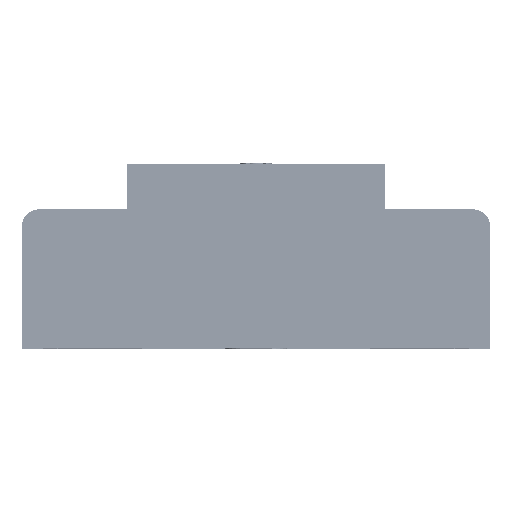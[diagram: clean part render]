
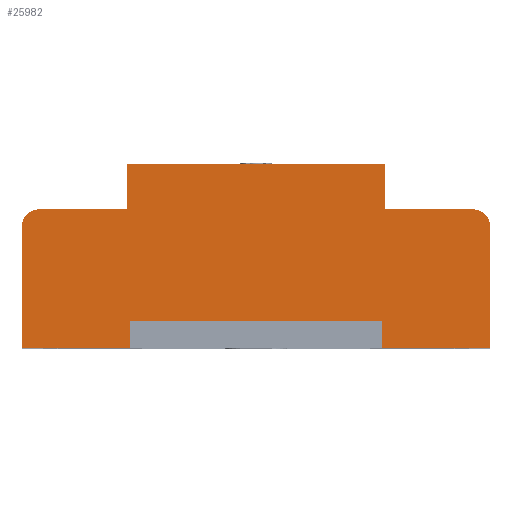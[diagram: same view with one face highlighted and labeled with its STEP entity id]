
A CAD part, top view. The second image highlights one B-rep face of the part: STEP entity #25982.
In plain terms, the highlighted planar face has unit normal (0, 0, 1).
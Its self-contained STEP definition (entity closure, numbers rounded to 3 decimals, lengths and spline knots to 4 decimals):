
#18813 = VERTEX_POINT ( 'NONE', #73922 ) ;
#18815 = EDGE_CURVE ( 'NONE', #18829, #18813, #73992, .T. ) ;
#18829 = VERTEX_POINT ( 'NONE', #73960 ) ;
#18831 = EDGE_CURVE ( 'NONE', #18832, #18829, #73959, .T. ) ;
#18832 = VERTEX_POINT ( 'NONE', #74025 ) ;
#18854 = EDGE_CURVE ( 'NONE', #18855, #18933, #73999, .T. ) ;
#18855 = VERTEX_POINT ( 'NONE', #73995 ) ;
#18863 = EDGE_CURVE ( 'NONE', #18876, #18887, #74055, .T. ) ;
#18870 = VERTEX_POINT ( 'NONE', #74036 ) ;
#18872 = EDGE_CURVE ( 'NONE', #18887, #18870, #74035, .T. ) ;
#18876 = VERTEX_POINT ( 'NONE', #74027 ) ;
#18878 = EDGE_CURVE ( 'NONE', #18879, #18876, #74092, .T. ) ;
#18879 = VERTEX_POINT ( 'NONE', #74088 ) ;
#18887 = VERTEX_POINT ( 'NONE', #74072 ) ;
#18901 = EDGE_CURVE ( 'NONE', #18902, #18832, #74117, .T. ) ;
#18902 = VERTEX_POINT ( 'NONE', #74113 ) ;
#18908 = VERTEX_POINT ( 'NONE', #74108 ) ;
#18910 = EDGE_CURVE ( 'NONE', #18919, #18908, #74107, .T. ) ;
#18919 = VERTEX_POINT ( 'NONE', #74093 ) ;
#18921 = EDGE_CURVE ( 'NONE', #18933, #18919, #74166, .T. ) ;
#18933 = VERTEX_POINT ( 'NONE', #74143 ) ;
#19196 = EDGE_CURVE ( 'NONE', #18813, #18879, #74516, .T. ) ;
#19356 = EDGE_CURVE ( 'NONE', #18870, #18855, #74698, .T. ) ;
#25982 = ADVANCED_FACE ( 'NONE', ( #91250 ), #91249, .T. ) ;
#25983 = EDGE_LOOP ( 'NONE', ( #25986, #25991, #25995, #26039, #26042, #26044, #26047, #26049, #26051, #26053, #26055, #26057, #26100, #26102 ) ) ;
#25986 = ORIENTED_EDGE ( 'NONE', *, *, #25988, .T. ) ;
#25988 = EDGE_CURVE ( 'NONE', #26020, #25989, #91239, .T. ) ;
#25989 = VERTEX_POINT ( 'NONE', #91235 ) ;
#25991 = ORIENTED_EDGE ( 'NONE', *, *, #25993, .T. ) ;
#25993 = EDGE_CURVE ( 'NONE', #25989, #18902, #91293, .T. ) ;
#25995 = ORIENTED_EDGE ( 'NONE', *, *, #18901, .T. ) ;
#26020 = VERTEX_POINT ( 'NONE', #91326 ) ;
#26039 = ORIENTED_EDGE ( 'NONE', *, *, #18831, .T. ) ;
#26042 = ORIENTED_EDGE ( 'NONE', *, *, #18815, .T. ) ;
#26044 = ORIENTED_EDGE ( 'NONE', *, *, #19196, .T. ) ;
#26047 = ORIENTED_EDGE ( 'NONE', *, *, #18878, .T. ) ;
#26049 = ORIENTED_EDGE ( 'NONE', *, *, #18863, .T. ) ;
#26051 = ORIENTED_EDGE ( 'NONE', *, *, #18872, .T. ) ;
#26053 = ORIENTED_EDGE ( 'NONE', *, *, #19356, .T. ) ;
#26055 = ORIENTED_EDGE ( 'NONE', *, *, #18854, .T. ) ;
#26057 = ORIENTED_EDGE ( 'NONE', *, *, #18921, .T. ) ;
#26063 = EDGE_CURVE ( 'NONE', #18908, #26020, #91357, .T. ) ;
#26100 = ORIENTED_EDGE ( 'NONE', *, *, #18910, .T. ) ;
#26102 = ORIENTED_EDGE ( 'NONE', *, *, #26063, .T. ) ;
#73398 = DIRECTION ( 'NONE',  ( 0., 0., 1. ) ) ;
#73922 = CARTESIAN_POINT ( 'NONE',  ( -1.116, -0.66, 1.314 ) ) ;
#73959 = CIRCLE ( 'NONE', #73962, 0.08 ) ;
#73960 = CARTESIAN_POINT ( 'NONE',  ( -1.116, -0.08, 1.314 ) ) ;
#73961 = CARTESIAN_POINT ( 'NONE',  ( -1.036, -0.08, 1.314 ) ) ;
#73962 = AXIS2_PLACEMENT_3D ( 'NONE', #73961, #73398, #74026 ) ;
#73989 = DIRECTION ( 'NONE',  ( 0., -1., 0. ) ) ;
#73990 = VECTOR ( 'NONE', #73989, 39.3701 ) ;
#73991 = CARTESIAN_POINT ( 'NONE',  ( -1.116, 0., 1.314 ) ) ;
#73992 = LINE ( 'NONE', #73991, #73990 ) ;
#73995 = CARTESIAN_POINT ( 'NONE',  ( 1.116, -0.66, 1.314 ) ) ;
#73996 = DIRECTION ( 'NONE',  ( 0., 1., 0. ) ) ;
#73997 = VECTOR ( 'NONE', #73996, 39.3701 ) ;
#73998 = CARTESIAN_POINT ( 'NONE',  ( 1.116, 0., 1.314 ) ) ;
#73999 = LINE ( 'NONE', #73998, #73997 ) ;
#74025 = CARTESIAN_POINT ( 'NONE',  ( -1.036, 0., 1.314 ) ) ;
#74026 = DIRECTION ( 'NONE',  ( -1., 0., 0. ) ) ;
#74027 = CARTESIAN_POINT ( 'NONE',  ( -0.6, -0.534, 1.314 ) ) ;
#74032 = DIRECTION ( 'NONE',  ( 0., -1., 0. ) ) ;
#74033 = VECTOR ( 'NONE', #74032, 39.3701 ) ;
#74034 = CARTESIAN_POINT ( 'NONE',  ( 0.6, 0., 1.314 ) ) ;
#74035 = LINE ( 'NONE', #74034, #74033 ) ;
#74036 = CARTESIAN_POINT ( 'NONE',  ( 0.6, -0.66, 1.314 ) ) ;
#74048 = DIRECTION ( 'NONE',  ( 1., 0., 0. ) ) ;
#74049 = VECTOR ( 'NONE', #74048, 39.3701 ) ;
#74050 = CARTESIAN_POINT ( 'NONE',  ( -0.615, -0.534, 1.314 ) ) ;
#74055 = LINE ( 'NONE', #74050, #74049 ) ;
#74072 = CARTESIAN_POINT ( 'NONE',  ( 0.6, -0.534, 1.314 ) ) ;
#74088 = CARTESIAN_POINT ( 'NONE',  ( -0.6, -0.66, 1.314 ) ) ;
#74089 = DIRECTION ( 'NONE',  ( 0., 1., 0. ) ) ;
#74090 = VECTOR ( 'NONE', #74089, 39.3701 ) ;
#74091 = CARTESIAN_POINT ( 'NONE',  ( -0.6, 0., 1.314 ) ) ;
#74092 = LINE ( 'NONE', #74091, #74090 ) ;
#74093 = CARTESIAN_POINT ( 'NONE',  ( 1.036, 0., 1.314 ) ) ;
#74104 = DIRECTION ( 'NONE',  ( -1., 0., 0. ) ) ;
#74105 = VECTOR ( 'NONE', #74104, 39.3701 ) ;
#74106 = CARTESIAN_POINT ( 'NONE',  ( -0.615, 0., 1.314 ) ) ;
#74107 = LINE ( 'NONE', #74106, #74105 ) ;
#74108 = CARTESIAN_POINT ( 'NONE',  ( 0.615, 0., 1.314 ) ) ;
#74113 = CARTESIAN_POINT ( 'NONE',  ( -0.615, 0., 1.314 ) ) ;
#74114 = DIRECTION ( 'NONE',  ( -1., 0., 0. ) ) ;
#74115 = VECTOR ( 'NONE', #74114, 39.3701 ) ;
#74116 = CARTESIAN_POINT ( 'NONE',  ( -0.615, 0., 1.314 ) ) ;
#74117 = LINE ( 'NONE', #74116, #74115 ) ;
#74143 = CARTESIAN_POINT ( 'NONE',  ( 1.116, -0.08, 1.314 ) ) ;
#74162 = DIRECTION ( 'NONE',  ( -1., 0., 0. ) ) ;
#74163 = DIRECTION ( 'NONE',  ( 0., 0., 1. ) ) ;
#74164 = CARTESIAN_POINT ( 'NONE',  ( 1.036, -0.08, 1.314 ) ) ;
#74165 = AXIS2_PLACEMENT_3D ( 'NONE', #74164, #74163, #74162 ) ;
#74166 = CIRCLE ( 'NONE', #74165, 0.08 ) ;
#74513 = DIRECTION ( 'NONE',  ( 1., 0., 0. ) ) ;
#74514 = VECTOR ( 'NONE', #74513, 39.3701 ) ;
#74515 = CARTESIAN_POINT ( 'NONE',  ( -0.615, -0.66, 1.314 ) ) ;
#74516 = LINE ( 'NONE', #74515, #74514 ) ;
#74694 = DIRECTION ( 'NONE',  ( 1., 0., 0. ) ) ;
#74695 = VECTOR ( 'NONE', #74694, 39.3701 ) ;
#74696 = CARTESIAN_POINT ( 'NONE',  ( -0.615, -0.66, 1.314 ) ) ;
#74698 = LINE ( 'NONE', #74696, #74695 ) ;
#91235 = CARTESIAN_POINT ( 'NONE',  ( -0.615, 0.215, 1.314 ) ) ;
#91236 = DIRECTION ( 'NONE',  ( -1., 0., 0. ) ) ;
#91237 = VECTOR ( 'NONE', #91236, 39.3701 ) ;
#91238 = CARTESIAN_POINT ( 'NONE',  ( -0.615, 0.215, 1.314 ) ) ;
#91239 = LINE ( 'NONE', #91238, #91237 ) ;
#91245 = DIRECTION ( 'NONE',  ( 1., 0., 0. ) ) ;
#91246 = DIRECTION ( 'NONE',  ( 0., 0., 1. ) ) ;
#91247 = CARTESIAN_POINT ( 'NONE',  ( -0.615, 0., 1.314 ) ) ;
#91248 = AXIS2_PLACEMENT_3D ( 'NONE', #91247, #91246, #91245 ) ;
#91249 = PLANE ( 'NONE',  #91248 ) ;
#91250 = FACE_OUTER_BOUND ( 'NONE', #25983, .T. ) ;
#91290 = DIRECTION ( 'NONE',  ( 0., -1., 0. ) ) ;
#91291 = VECTOR ( 'NONE', #91290, 39.3701 ) ;
#91292 = CARTESIAN_POINT ( 'NONE',  ( -0.615, 0., 1.314 ) ) ;
#91293 = LINE ( 'NONE', #91292, #91291 ) ;
#91326 = CARTESIAN_POINT ( 'NONE',  ( 0.615, 0.215, 1.314 ) ) ;
#91354 = DIRECTION ( 'NONE',  ( 0., 1., 0. ) ) ;
#91355 = VECTOR ( 'NONE', #91354, 39.3701 ) ;
#91356 = CARTESIAN_POINT ( 'NONE',  ( 0.615, 0., 1.314 ) ) ;
#91357 = LINE ( 'NONE', #91356, #91355 ) ;
